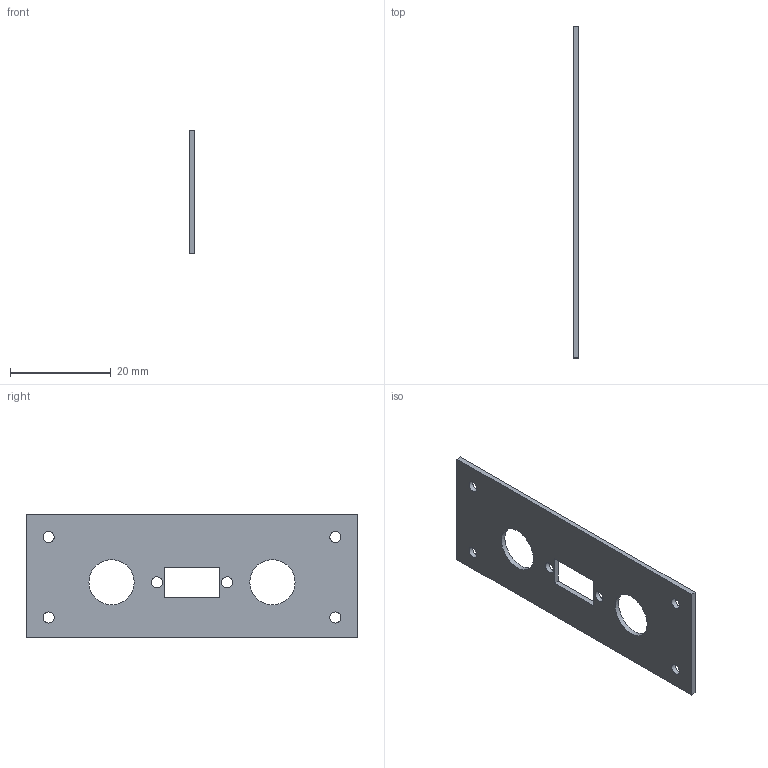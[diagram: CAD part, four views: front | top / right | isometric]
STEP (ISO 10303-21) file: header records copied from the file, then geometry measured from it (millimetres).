
FILE_DESCRIPTION(/* description */ (''),/* implementation_level */ '2;1');
FILE_NAME(/* name */ 'PDB-06-601_Connector_Bulkhead_Plate_R01.step',/* time_stamp */ '2026-11-24T01:50:39+05:00',/* author */ (''),/* organization */ (''),/* preprocessor_version */ 'ST-DEVELOPER v20.2',/* originating_system */ 'Autodesk Translation Framework v15.17.0.0',/* authorisation */ '');
FILE_SCHEMA (('AUTOMOTIVE_DESIGN { 1 0 10303 214 3 1 1 }'));
Length unit declared in the file: centimetre
Products named in the file (1): 2026-11-24-01-50-39-863
Bounding box: 1 x 66 x 24.5 mm (x, y, z)
Volume: 1401 mm3; surface area: 3114.9 mm2
Topology: 1 solids, 1 shells, 18 faces, 48 edges, 32 vertices
Faces by surface type: plane 10, cylinder 8
Full cylindrical faces by diameter (mm): 2.2 x6, 9 x2
Entity records: 637 total; most frequent: DIRECTION 102, CARTESIAN_POINT 99, ORIENTED_EDGE 96, EDGE_CURVE 48, EDGE_LOOP 36, AXIS2_PLACEMENT_3D 35, LINE 32, VECTOR 32
